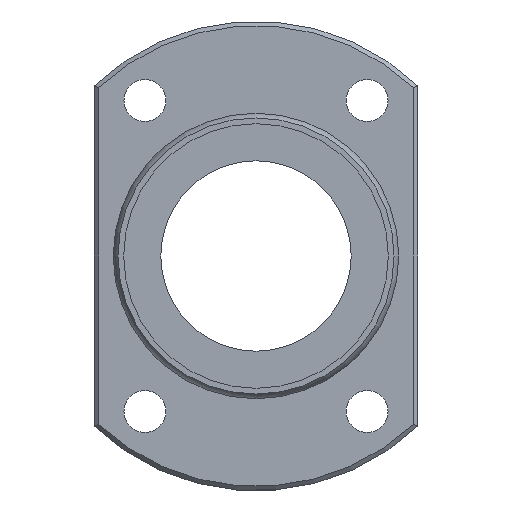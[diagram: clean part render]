
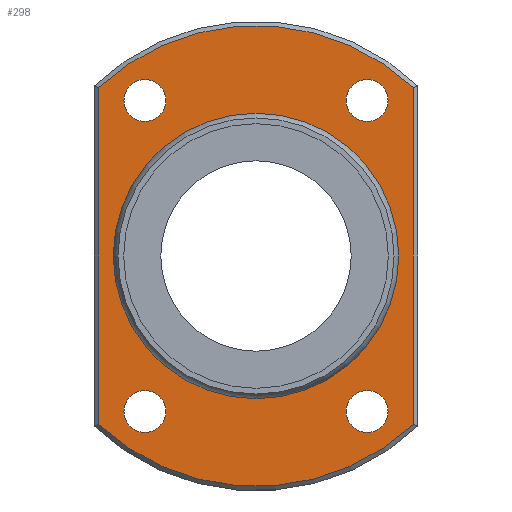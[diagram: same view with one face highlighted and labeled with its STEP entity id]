
A CAD part, left-side view. The second image highlights one B-rep face of the part: STEP entity #298.
In plain terms, the highlighted planar face has unit normal (-1, 0, 0).
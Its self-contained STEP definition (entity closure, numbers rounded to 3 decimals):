
#59=CARTESIAN_POINT('',(15.,24.8,-26.508));
#60=VERTEX_POINT('',#59);
#68=CARTESIAN_POINT('',(15.,24.8,26.508));
#69=VERTEX_POINT('',#68);
#70=CARTESIAN_POINT('',(15.,24.8,-26.508));
#71=DIRECTION('',(0.0,0.0,1.0));
#72=VECTOR('',#71,53.015);
#73=LINE('',#70,#72);
#74=EDGE_CURVE('',#60,#69,#73,.T.);
#101=CARTESIAN_POINT('',(15.,-24.8,26.508));
#102=VERTEX_POINT('',#101);
#103=CARTESIAN_POINT('',(15.,0.0,0.0));
#104=DIRECTION('',(1.0,0.0,0.0));
#105=DIRECTION('',(0.0,0.0,1.0));
#106=AXIS2_PLACEMENT_3D('',#103,#104,#105);
#107=CIRCLE('',#106,36.3);
#108=EDGE_CURVE('',#69,#102,#107,.T.);
#134=CARTESIAN_POINT('',(15.,-24.8,-26.508));
#135=VERTEX_POINT('',#134);
#136=CARTESIAN_POINT('',(15.,-24.8,26.508));
#137=DIRECTION('',(0.0,0.0,-1.0));
#138=VECTOR('',#137,53.015);
#139=LINE('',#136,#138);
#140=EDGE_CURVE('',#102,#135,#139,.T.);
#165=CARTESIAN_POINT('',(15.,0.0,0.0));
#166=DIRECTION('',(1.0,0.0,0.0));
#167=DIRECTION('',(0.0,0.0,-1.0));
#168=AXIS2_PLACEMENT_3D('',#165,#166,#167);
#169=CIRCLE('',#168,36.3);
#170=EDGE_CURVE('',#135,#60,#169,.T.);
#232=CARTESIAN_POINT('',(15.,0.0,29.563));
#233=DIRECTION('',(-1.0,0.0,0.0));
#234=DIRECTION('',(0.0,0.0,1.0));
#235=AXIS2_PLACEMENT_3D('',#232,#233,#234);
#236=PLANE('',#235);
#237=ORIENTED_EDGE('',*,*,#74,.F.);
#238=ORIENTED_EDGE('',*,*,#170,.F.);
#239=ORIENTED_EDGE('',*,*,#140,.F.);
#240=ORIENTED_EDGE('',*,*,#108,.F.);
#241=EDGE_LOOP('',(#237,#238,#239,#240));
#242=FACE_OUTER_BOUND('',#241,.T.);
#243=CARTESIAN_POINT('',(15.,0.0,22.127));
#244=VERTEX_POINT('',#243);
#245=CARTESIAN_POINT('',(15.0,0.0,0.0));
#246=DIRECTION('',(-1.0,0.0,0.0));
#247=DIRECTION('',(0.0,0.0,1.0));
#248=AXIS2_PLACEMENT_3D('',#245,#246,#247);
#249=CIRCLE('',#248,22.127);
#250=EDGE_CURVE('',#244,#244,#249,.T.);
#251=ORIENTED_EDGE('',*,*,#250,.F.);
#252=EDGE_LOOP('',(#251));
#253=FACE_BOUND('',#252,.T.);
#254=CARTESIAN_POINT('',(15.0,-20.8,-24.5));
#255=VERTEX_POINT('',#254);
#256=CARTESIAN_POINT('',(15.0,-17.5,-24.5));
#257=DIRECTION('',(1.0,0.0,0.0));
#258=DIRECTION('',(0.0,1.0,0.0));
#259=AXIS2_PLACEMENT_3D('',#256,#257,#258);
#260=CIRCLE('',#259,3.3);
#261=EDGE_CURVE('',#255,#255,#260,.T.);
#262=ORIENTED_EDGE('',*,*,#261,.T.);
#263=EDGE_LOOP('',(#262));
#264=FACE_BOUND('',#263,.T.);
#265=CARTESIAN_POINT('',(15.0,-20.8,24.5));
#266=VERTEX_POINT('',#265);
#267=CARTESIAN_POINT('',(15.0,-17.5,24.5));
#268=DIRECTION('',(1.0,0.0,0.0));
#269=DIRECTION('',(0.0,1.0,0.0));
#270=AXIS2_PLACEMENT_3D('',#267,#268,#269);
#271=CIRCLE('',#270,3.3);
#272=EDGE_CURVE('',#266,#266,#271,.T.);
#273=ORIENTED_EDGE('',*,*,#272,.T.);
#274=EDGE_LOOP('',(#273));
#275=FACE_BOUND('',#274,.T.);
#276=CARTESIAN_POINT('',(15.0,14.2,-24.5));
#277=VERTEX_POINT('',#276);
#278=CARTESIAN_POINT('',(15.0,17.5,-24.5));
#279=DIRECTION('',(1.0,0.0,0.0));
#280=DIRECTION('',(0.0,1.0,0.0));
#281=AXIS2_PLACEMENT_3D('',#278,#279,#280);
#282=CIRCLE('',#281,3.3);
#283=EDGE_CURVE('',#277,#277,#282,.T.);
#284=ORIENTED_EDGE('',*,*,#283,.T.);
#285=EDGE_LOOP('',(#284));
#286=FACE_BOUND('',#285,.T.);
#287=CARTESIAN_POINT('',(15.0,14.2,24.5));
#288=VERTEX_POINT('',#287);
#289=CARTESIAN_POINT('',(15.0,17.5,24.5));
#290=DIRECTION('',(1.0,0.0,0.0));
#291=DIRECTION('',(0.0,1.0,0.0));
#292=AXIS2_PLACEMENT_3D('',#289,#290,#291);
#293=CIRCLE('',#292,3.3);
#294=EDGE_CURVE('',#288,#288,#293,.T.);
#295=ORIENTED_EDGE('',*,*,#294,.T.);
#296=EDGE_LOOP('',(#295));
#297=FACE_BOUND('',#296,.T.);
#298=ADVANCED_FACE('',(#242,#253,#264,#275,#286,#297),#236,.T.);
